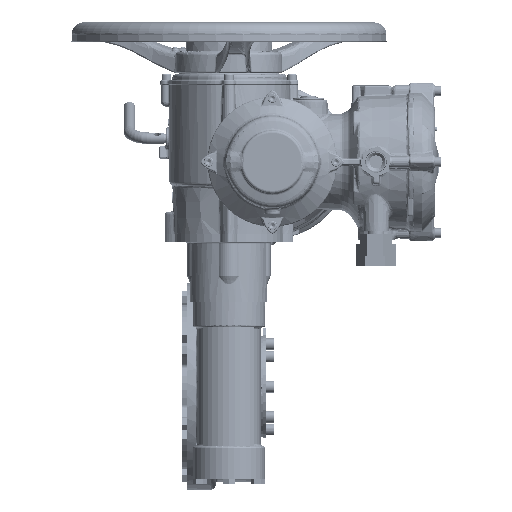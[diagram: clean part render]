
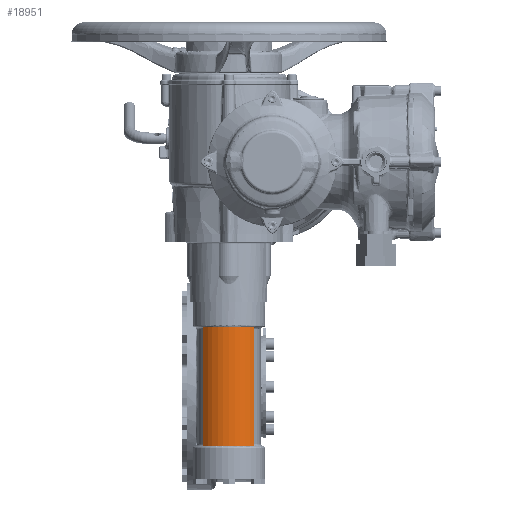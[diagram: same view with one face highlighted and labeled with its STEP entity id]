
A CAD part, left-side view. The second image highlights one B-rep face of the part: STEP entity #18951.
In plain terms, the highlighted cylindrical face has radius 47 mm (diameter 94 mm), a partial arc.
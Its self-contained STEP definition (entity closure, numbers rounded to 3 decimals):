
#18951 = ADVANCED_FACE( '', ( #39507 ), #39508, .T. );
#39507 = FACE_OUTER_BOUND( '', #296977, .T. );
#39508 = CYLINDRICAL_SURFACE( '', #296978, 47. );
#296977 = EDGE_LOOP( '', ( #387054, #387055, #387056, #387057 ) );
#296978 = AXIS2_PLACEMENT_3D( '', #387058, #387059, #387060 );
#387054 = ORIENTED_EDGE( '', *, *, #414073, .F. );
#387055 = ORIENTED_EDGE( '', *, *, #416816, .F. );
#387056 = ORIENTED_EDGE( '', *, *, #415320, .T. );
#387057 = ORIENTED_EDGE( '', *, *, #401080, .F. );
#387058 = CARTESIAN_POINT( '', ( 0., 0., 136.045 ) );
#387059 = DIRECTION( '', ( 0., 0., 1. ) );
#387060 = DIRECTION( '', ( 0., -1., 0. ) );
#401080 = EDGE_CURVE( '', #428781, #428783, #428784, .T. );
#414073 = EDGE_CURVE( '', #442479, #428781, #446919, .T. );
#415320 = EDGE_CURVE( '', #448325, #428783, #448327, .T. );
#416816 = EDGE_CURVE( '', #448325, #442479, #449958, .F. );
#428781 = VERTEX_POINT( '', #503310 );
#428783 = VERTEX_POINT( '', #503312 );
#428784 = CIRCLE( '', #503313, 47. );
#442479 = VERTEX_POINT( '', #575520 );
#446919 = LINE( '', #601713, #601714 );
#448325 = VERTEX_POINT( '', #608452 );
#448327 = LINE( '', #608469, #608470 );
#449958 = CIRCLE( '', #616168, 47. );
#503310 = CARTESIAN_POINT( '', ( -31.369, -35., -392.14 ) );
#503312 = CARTESIAN_POINT( '', ( -31.369, 35., -392.14 ) );
#503313 = AXIS2_PLACEMENT_3D( '', #626545, #626546, #626547 );
#575520 = CARTESIAN_POINT( '', ( -31.369, -35., -228.14 ) );
#601713 = CARTESIAN_POINT( '', ( -31.369, -35., 136.045 ) );
#601714 = VECTOR( '', #639011, 1000. );
#608452 = CARTESIAN_POINT( '', ( -31.369, 35., -228.14 ) );
#608469 = CARTESIAN_POINT( '', ( -31.369, 35., 136.045 ) );
#608470 = VECTOR( '', #639897, 1000. );
#616168 = AXIS2_PLACEMENT_3D( '', #640796, #640797, #640798 );
#626545 = CARTESIAN_POINT( '', ( 0., 0., -392.14 ) );
#626546 = DIRECTION( '', ( 0., 0., -1. ) );
#626547 = DIRECTION( '', ( 0., -1., 0. ) );
#639011 = DIRECTION( '', ( 0., 0., -1. ) );
#639897 = DIRECTION( '', ( 0., 0., -1. ) );
#640796 = CARTESIAN_POINT( '', ( 0., 0., -228.14 ) );
#640797 = DIRECTION( '', ( 0., 0., -1. ) );
#640798 = DIRECTION( '', ( 0., -1., 0. ) );
